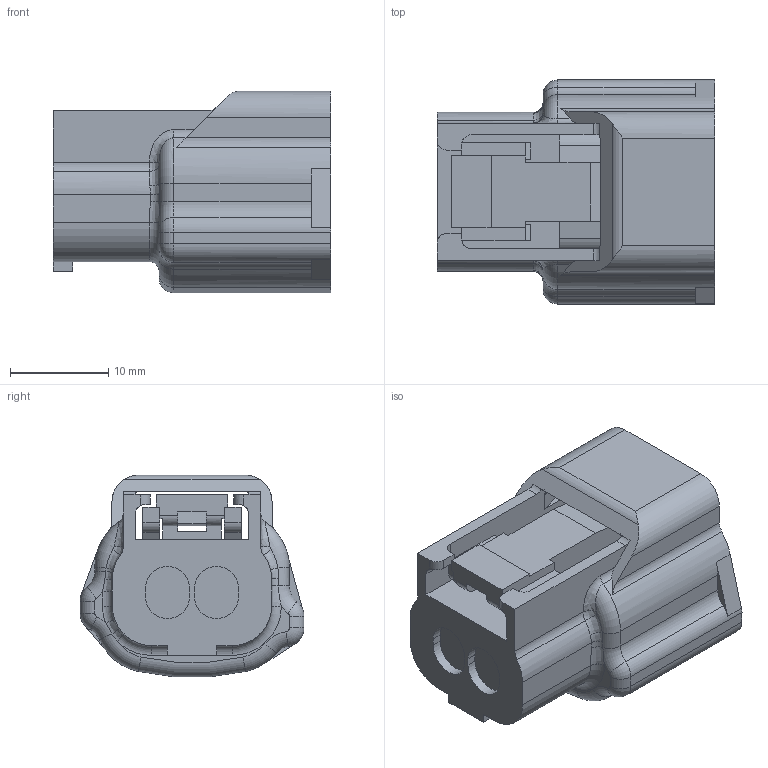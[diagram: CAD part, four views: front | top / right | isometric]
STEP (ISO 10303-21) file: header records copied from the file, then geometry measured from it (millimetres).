
FILE_DESCRIPTION(('CATIA V5 STEP Exchange','CAx-IF Rec.Pracs.--- Model Styling and Organization---1.2---2011-12-15'),'2;1');
FILE_NAME('N:\C-DAM_MyDesk\ENV\900093\6189-0775.stp','2014-12-01T02:03:31+00:00',('none'),('none'),'Version 5-6 Release 2012','CATIA V5 STEP AP214','none');
FILE_SCHEMA(('AUTOMOTIVE_DESIGN { 1 0 10303 214 1 1 1 1 }'));
Length unit declared in the file: millimetre
Products named in the file (1): 6189-0775
Bounding box: 28.3 x 22.8 x 20.53 mm (x, y, z)
Volume: 6180.7 mm3; surface area: 4785.2 mm2
Topology: 1 solids, 1 shells, 214 faces, 605 edges, 393 vertices
Faces by surface type: plane 118, cylinder 64, bspline 16, torus 16
Entity records: 7417 total; most frequent: CARTESIAN_POINT 2138, ORIENTED_EDGE 1210, DIRECTION 882, EDGE_CURVE 605, VERTEX_POINT 393, VECTOR 391, LINE 391, AXIS2_PLACEMENT_3D 315
